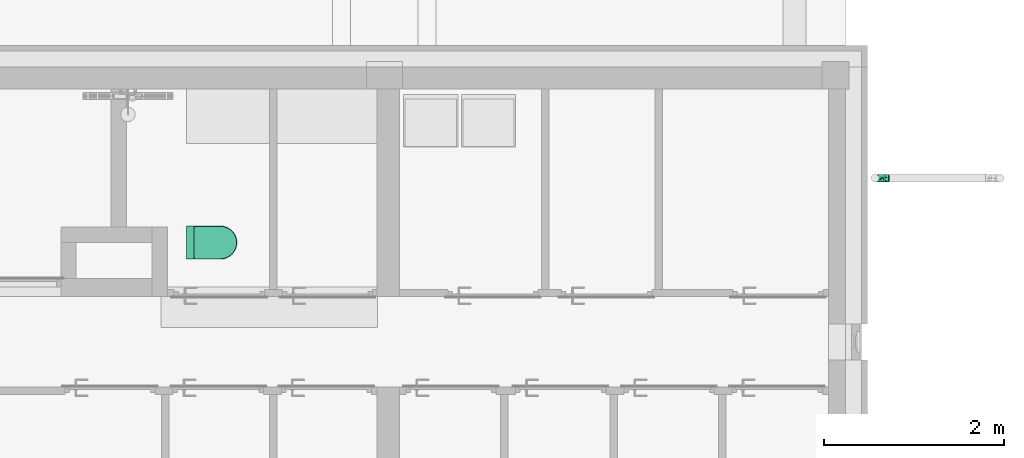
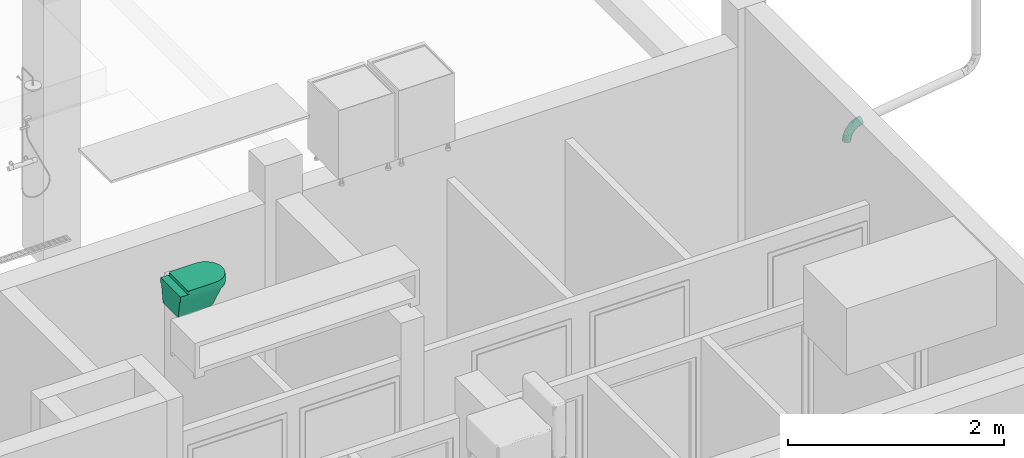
# One storey, part 12 of 55: 1 flow fitting, 1 flow terminal.
"""IFC2X3 building model written with IfcOpenShell, lengths in millimetres."""

from ifc_helpers import new_model, entity, si_unit, converted_unit, direction, frame, origin, place, context, subcontext, project, spatial, faceted_brep, source, transform, mapped, material, type_object, type_shapes, element, save


model = new_model("IFC2X3")

# Units and contexts
model_context = context("Model", 3, precision=0.01, world=origin(), true_north=direction((6.123233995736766e-17, 1.0)))
plan_context = context("Plan", 3, precision=0.01, world=origin(), true_north=direction((6.123233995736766e-17, 1.0)))
body_context = subcontext(model_context, "Body", "Model", "MODEL_VIEW")
ifc_project = project(units=[si_unit("LENGTHUNIT", "METRE", prefix="MILLI"), converted_unit("PLANEANGLEUNIT", "DEGREE", entity("IfcPlaneAngleMeasure", 0.017453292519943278), si_unit("PLANEANGLEUNIT", "RADIAN"), dimensions=[0, 0, 0, 0, 0, 0, 0]), si_unit("AREAUNIT", "SQUARE_METRE")], contexts=[model_context, plan_context])

# Site, building, storey, space
site_placement = place(None, origin())
site = spatial("IfcSite", under=ifc_project, at=site_placement, Name="Default", CompositionType="ELEMENT")
building_placement = place(site_placement, origin())
building = spatial("IfcBuilding", under=site, at=building_placement, CompositionType="ELEMENT")
storey_placement = place(building_placement, origin())
storey = spatial("IfcBuildingStorey", under=building, at=storey_placement, Name="1K", CompositionType="ELEMENT", Elevation=0.0)
space_placement = place(storey_placement, origin())
space = spatial("IfcSpace", under=storey, at=space_placement, Name="1-0.6", CompositionType="ELEMENT", InteriorOrExteriorSpace="INTERNAL")

# Flow terminal
ifc_material = material(Name="<Unnamed>")
distribution_element_type = type_object("IfcDistributionElementType", Name="HR_Plumbing-fixtures_Toilet_Generic_v3:Default", material=ifc_material)
shared_shape_1 = source(origin(), body_context, "Body", "Brep", [
    faceted_brep([(185.0, 375.0, -3940.0), (185.0, 100.0, -3940.0), (184.31851652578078, 94.82361909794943, -3940.0), (182.32050807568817, 90.0, -3940.0), (179.14213562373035, 85.85786437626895, -3940.0), (175.0, 82.67949192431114, -3940.0), (170.17638090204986, 80.68148347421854, -3940.0), (165.0, 80.0, -3940.0), (-165.0, 80.0, -3940.0), (-170.17638090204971, 80.68148347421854, -3940.0), (-175.0, 82.67949192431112, -3940.0), (-179.14213562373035, 85.85786437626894, -3940.0), (-182.32050807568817, 90.0, -3940.0), (-184.31851652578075, 94.82361909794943, -3940.0), (-185.0, 100.0, -3940.0), (-185.0, 375.0, -3940.0), (-178.6962778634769, 422.8815233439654, -3940.0), (-160.21469970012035, 467.49999999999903, -3940.0), (-130.81475451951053, 505.81475451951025, -3940.0), (-92.4999999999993, 535.21469970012, -3940.0), (-47.8815233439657, 553.6962778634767, -3940.0), (0.0, 560.0, -3940.0), (47.88152334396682, 553.6962778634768, -3940.0), (92.50000000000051, 535.2146997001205, -3940.0), (130.81475451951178, 505.8147545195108, -3940.0), (160.2146997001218, 467.4999999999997, -3940.0), (178.69627786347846, 422.8815233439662, -3940.0), (165.0, 85.0, -3905.0), (168.88228567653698, 85.51111260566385, -3905.0), (172.4999999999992, 87.00961894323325, -3905.0), (175.60660171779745, 89.39339828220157, -3905.0), (177.99038105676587, 92.49999999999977, -3905.0), (179.48888739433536, 96.11771432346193, -3905.0), (180.0, 100.0, -3905.0), (180.0, 375.0, -3905.0), (173.86664873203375, 421.5874281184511, -3905.0), (155.88457268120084, 465.0, -3905.0), (127.27922061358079, 502.27922061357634, -3905.0), (90.0, 530.884572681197, -3905.0), (46.58742811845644, 548.8666487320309, -3905.0), (0.0, 555.0, -3905.0), (-46.58742811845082, 548.8666487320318, -3905.0), (-90.0, 530.8845726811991, -3905.0), (-127.27922061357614, 502.2792206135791, -3905.0), (-155.88457268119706, 465.0, -3905.0), (-173.8666487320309, 421.58742811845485, -3905.0), (-180.0, 375.0, -3905.0), (-180.0, 100.0, -3905.0), (-179.4888873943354, 96.11771432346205, -3905.0), (-177.99038105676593, 92.49999999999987, -3905.0), (-175.6066017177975, 89.39339828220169, -3905.0), (-172.49999999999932, 87.00961894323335, -3905.0), (-168.88228567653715, 85.51111260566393, -3905.0), (-165.0, 85.0, -3905.0)], [[[0, 1, 2, 3, 4, 5, 6, 7, 8, 9, 10, 11, 12, 13, 14, 15, 16, 17, 18, 19, 20, 21, 22, 23, 24, 25, 26]], [[27, 28, 29, 30, 31, 32, 33, 34, 35, 36, 37, 38, 39, 40, 41, 42, 43, 44, 45, 46, 47, 48, 49, 50, 51, 52, 53]], [[13, 48, 47, 14]], [[49, 12, 11, 50]], [[48, 13, 12, 49]], [[52, 51, 10, 9]], [[53, 52, 9, 8]], [[10, 51, 50, 11]], [[7, 27, 53, 8]], [[6, 28, 27, 7]], [[29, 5, 4, 30]], [[28, 6, 5, 29]], [[32, 31, 3, 2]], [[33, 32, 2, 1]], [[3, 31, 30, 4]], [[0, 34, 33, 1]], [[34, 0, 26, 35]], [[35, 26, 25, 36]], [[38, 37, 24, 23]], [[24, 37, 36, 25]], [[39, 38, 23, 22]], [[39, 22, 21, 40]], [[20, 41, 40, 21]], [[45, 44, 17, 16]], [[43, 18, 17, 44]], [[45, 16, 15, 46]], [[19, 42, 41, 20]], [[19, 18, 43, 42]], [[47, 46, 15, 14]]]),
    faceted_brep([(158.04963619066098, 466.24999999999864, -4000.0), (176.28146329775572, 422.2344757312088, -4000.0), (182.5000000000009, 375.0, -4000.0), (182.5000000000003, 0.0, -4000.0), (-182.49999999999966, 0.0, -4000.0), (-182.49999999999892, 375.0, -4000.0), (-176.2814632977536, 422.23447573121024, -4000.0), (-158.04963619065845, 466.25, -4000.0), (-129.04698756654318, 504.0469875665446, -4000.0), (-91.2499999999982, 533.0496361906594, -4000.0), (-47.23447573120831, 551.281463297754, -4000.0), (0.0, 557.4999999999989, -4000.0), (47.23447573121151, 551.2814632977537, -4000.0), (91.25000000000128, 533.0496361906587, -4000.0), (129.04698756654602, 504.0469875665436, -4000.0), (-176.28146329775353, 422.23447573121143, -3940.0), (-182.49999999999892, 375.0, -3940.0), (-182.49999999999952, 0.0, -3940.0), (182.50000000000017, 0.0, -3940.0), (182.50000000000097, 375.0, -3940.0), (176.2814632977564, 422.23447573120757, -3940.0), (158.04963619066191, 466.24999999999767, -3940.0), (129.04698756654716, 504.04698756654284, -3940.0), (91.25000000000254, 533.0496361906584, -3940.0), (47.23447573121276, 551.2814632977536, -3940.0), (0.0, 557.4999999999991, -3940.0), (-47.23447573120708, 551.2814632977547, -3940.0), (-91.24999999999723, 533.0496361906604, -3940.0), (-129.04698756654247, 504.0469875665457, -3940.0), (-158.0496361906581, 466.25000000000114, -3940.0), (184.3739186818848, 0.0, -3985.051993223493), (185.0, 0.0, -3970.0), (184.37391868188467, 0.0, -3954.9480067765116), (-184.37391868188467, 0.0, -3954.9480067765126), (-185.0, 0.0, -3970.0), (-184.37391868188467, 0.0, -3985.051993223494), (185.0, 375.0, -3970.0), (184.37391868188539, 375.0, -3954.9480067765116), (184.37391868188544, 375.0, -3985.051993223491), (179.22193525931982, 420.2391964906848, -3962.467496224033), (146.12425609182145, 487.1250848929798, -3987.162723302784), (112.36452390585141, 521.4362980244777, -3982.347722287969), (-24.092382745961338, 557.9998161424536, -3957.652277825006), (-70.79643453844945, 545.9177137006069, -3969.999999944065), (165.88140661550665, 456.6493815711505, -3963.605381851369), (170.61476036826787, 445.67094705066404, -3980.89777177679), (146.7703673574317, 487.6208651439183, -3969.999999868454), (112.4934291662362, 521.6042920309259, -3961.29138681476), (70.79643457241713, 545.9177136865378, -3969.9999999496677), (-170.6147602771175, 445.67094700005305, -3980.8977734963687), (-146.12425609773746, 487.12508488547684, -3987.1627233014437), (70.4847752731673, 545.1653000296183, -3987.16272333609), (24.092382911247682, 557.9998161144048, -3982.3477222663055), (-146.77036734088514, 487.62086516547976, -3969.999999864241), (-165.88140640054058, 456.6493822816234, -3963.605385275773), (24.120021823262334, 558.2097557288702, -3961.2913867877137), (-24.120022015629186, 558.20975569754, -3978.7086133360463), (180.8695297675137, 411.23491834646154, -3983.9362692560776), (-112.36452329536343, 521.4362985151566, -3957.652277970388), (-112.4934298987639, 521.6042914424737, -3978.708613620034), (-70.48477528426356, 545.1653000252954, -3987.1627233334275), (-184.3739188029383, 375.0, -3954.948008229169), (-179.2219343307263, 420.239200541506, -3962.4674984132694), (-185.0, 375.0, -3970.0000029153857), (-184.3739185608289, 375.0, -3985.0519946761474), (-181.40133300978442, 410.0856400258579, -3979.2616608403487)], [[[0, 1, 2, 3, 4, 5, 6, 7, 8, 9, 10, 11, 12, 13, 14]], [[15, 16, 17, 18, 19, 20, 21, 22, 23, 24, 25, 26, 27, 28, 29]], [[4, 3, 30, 31, 32, 18, 17, 33, 34, 35]], [[32, 31, 36, 37]], [[32, 37, 19, 18]], [[30, 3, 2, 38]], [[30, 38, 36, 31]], [[37, 39, 20]], [[40, 14, 41]], [[20, 19, 37]], [[26, 42, 43]], [[44, 45, 46]], [[47, 41, 48]], [[48, 24, 23]], [[7, 49, 50]], [[47, 22, 46]], [[51, 12, 52]], [[21, 46, 22]], [[53, 49, 54]], [[55, 52, 56]], [[48, 52, 55]], [[36, 57, 39]], [[28, 58, 53]], [[11, 10, 56]], [[57, 38, 2]], [[37, 36, 39]], [[59, 58, 43]], [[7, 6, 49]], [[14, 13, 41]], [[12, 51, 13]], [[45, 57, 1]], [[14, 40, 0]], [[45, 1, 0]], [[47, 46, 41]], [[39, 57, 45]], [[24, 48, 55]], [[56, 42, 55]], [[26, 43, 27]], [[39, 45, 44]], [[58, 28, 27]], [[9, 59, 60]], [[27, 43, 58]], [[28, 53, 29]], [[61, 16, 15]], [[11, 56, 52]], [[61, 62, 63]], [[47, 48, 23]], [[41, 51, 48]], [[15, 54, 62]], [[42, 25, 55]], [[62, 61, 15]], [[64, 63, 65]], [[56, 60, 43]], [[55, 25, 24]], [[50, 53, 59]], [[60, 10, 9]], [[47, 23, 22]], [[62, 49, 65]], [[7, 50, 8]], [[49, 62, 54]], [[64, 6, 5]], [[42, 26, 25]], [[58, 59, 53]], [[49, 6, 65]], [[44, 21, 20]], [[11, 52, 12]], [[42, 56, 43]], [[46, 45, 40]], [[59, 9, 8]], [[39, 44, 20]], [[44, 46, 21]], [[54, 29, 53]], [[29, 54, 15]], [[13, 51, 41]], [[48, 51, 52]], [[0, 40, 45]], [[46, 40, 41]], [[10, 60, 56]], [[43, 60, 59]], [[8, 50, 59]], [[53, 50, 49]], [[1, 57, 2]], [[36, 38, 57]], [[62, 65, 63]], [[64, 65, 6]], [[16, 61, 33]], [[16, 33, 17]], [[33, 61, 34]], [[61, 63, 34]], [[64, 5, 4]], [[64, 35, 63]], [[35, 64, 4]], [[63, 35, 34]]]),
    faceted_brep([(85.0, 522.224318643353, -4000.0), (43.99923766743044, 539.2073904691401, -4000.0), (0.0, 545.0, -4000.0), (-43.99923766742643, 539.2073904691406, -4000.0), (-85.0, 522.2243186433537, -4000.0), (-120.20815280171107, 495.2081528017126, -4000.0), (-147.22431864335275, 460.0, -4000.0), (-164.20739046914, 418.9992376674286, -4000.0), (-170.0, 375.0, -4000.0), (-170.0, 0.0, -4000.0), (170.0, 0.0, -4000.0), (170.0, 375.0, -4000.0), (164.2073904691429, 418.99923766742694, -4000.0), (147.224318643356, 460.0, -4000.0), (120.20815280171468, 495.20815280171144, -4000.0), (140.0, 0.0, -4200.0), (-140.0, 0.0, -4200.0), (-140.0, 150.0, -4200.0), (-138.62980634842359, 195.25787346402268, -4200.0), (-137.25961308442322, 240.51573412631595, -4200.0), (-133.15405183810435, 285.6078202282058, -4200.0), (-129.04849039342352, 330.69990850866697, -4200.0), (-121.54313718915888, 361.12229181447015, -4200.0), (-106.97640292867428, 388.86507440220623, -4200.0), (-86.1945818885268, 412.3164634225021, -4200.0), (-60.40505081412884, 430.11398627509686, -4200.0), (-31.106123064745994, 441.2236471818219, -4200.0), (0.0, 445.0, -4200.0), (31.106123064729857, 441.2236471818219, -4200.0), (60.40505081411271, 430.1139862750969, -4200.0), (86.19458188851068, 412.3164634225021, -4200.0), (106.97640292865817, 388.86507440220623, -4200.0), (121.54313718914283, 361.12229181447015, -4200.0), (129.04849039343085, 330.69990850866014, -4200.0), (133.15405231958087, 285.60781494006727, -4200.0), (137.25961308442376, 240.51573412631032, -4200.0), (138.629806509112, 195.25786815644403, -4200.0), (140.0, 150.0, -4200.0), (150.60660238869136, 229.54951791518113, -4129.289317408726), (160.30330119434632, 302.2747589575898, -4064.6446587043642), (155.52145288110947, 359.3375502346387, -4070.710688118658), (143.52703751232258, 346.36235827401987, -4129.289311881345), (155.38792293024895, 359.1931016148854, -4071.362825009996), (136.07910358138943, 407.7451780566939, -4100.000018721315), (144.4628484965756, 378.65444268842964, -4105.413468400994), (88.6637225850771, 465.93257853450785, -4100.000001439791), (116.08235687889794, 439.8543237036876, -4100.000003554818), (-146.76963007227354, 381.58655237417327, -4094.5865394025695), (-136.0791098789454, 407.7451788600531, -4100.000000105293), (-143.66056550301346, 346.5068047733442, -4128.637184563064), (-156.76351819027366, 360.6811785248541, -4064.644658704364), (55.573859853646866, 484.30716171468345, -4100.000000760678), (18.928354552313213, 493.79904274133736, -4099.999999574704), (-55.573860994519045, 484.3071615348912, -4100.00000022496), (-18.928355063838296, 493.79904230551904, -4100.000000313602), (-143.52703638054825, 346.36235704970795, -4129.289317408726), (-88.66372427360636, 465.9325779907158, -4100.000000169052), (-116.08235986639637, 439.8543221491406, -4100.000000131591), (-159.3933967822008, 295.45047586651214, -4070.7106881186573), (-150.6066032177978, 229.54952413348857, -4129.2893118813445)], [[[0, 1, 2, 3, 4, 5, 6, 7, 8, 9, 10, 11, 12, 13, 14]], [[15, 16, 17, 18, 19, 20, 21, 22, 23, 24, 25, 26, 27, 28, 29, 30, 31, 32, 33, 34, 35, 36, 37]], [[10, 15, 37, 38, 39, 11]], [[36, 35, 39, 38, 37]], [[39, 40, 11]], [[35, 40, 39]], [[34, 33, 41, 42, 40, 35]], [[13, 12, 43]], [[32, 44, 33]], [[32, 31, 43]], [[44, 12, 42]], [[45, 30, 29]], [[45, 46, 30]], [[22, 47, 48]], [[30, 46, 31]], [[47, 49, 50, 8]], [[28, 51, 29]], [[46, 43, 31]], [[43, 44, 32]], [[12, 11, 40, 42]], [[51, 45, 29]], [[14, 45, 0]], [[13, 43, 46]], [[28, 27, 52]], [[14, 46, 45]], [[45, 51, 0]], [[0, 51, 1]], [[1, 51, 52]], [[52, 51, 28]], [[52, 2, 1]], [[13, 46, 14]], [[53, 26, 25]], [[2, 54, 3]], [[22, 21, 55, 49]], [[24, 56, 25]], [[48, 23, 22]], [[5, 57, 6]], [[48, 57, 23]], [[24, 23, 57]], [[47, 7, 48]], [[8, 7, 47]], [[26, 54, 27]], [[3, 54, 53]], [[56, 53, 25]], [[2, 52, 54]], [[57, 56, 24]], [[4, 53, 56]], [[22, 49, 47]], [[5, 56, 57]], [[57, 48, 6]], [[4, 56, 5]], [[53, 54, 26]], [[3, 53, 4]], [[6, 48, 7]], [[12, 44, 43]], [[44, 42, 41, 33]], [[54, 52, 27]], [[20, 19, 50, 49, 55, 21]], [[50, 58, 8]], [[19, 58, 50]], [[18, 17, 59, 58, 19]], [[9, 8, 58, 59, 17, 16]], [[9, 16, 15, 10]]]),
])
type_shapes(distribution_element_type, [shared_shape_1])
flow_terminal_placement = place(space_placement, frame((9783.0, 4700.0, 7430.0), z_axis=(0.0, 0.0, 1.0), x_axis=(0.0, -1.0, 0.0)))
element("IfcFlowTerminal", 1, at=flow_terminal_placement, inside=space, type_object=distribution_element_type, material=ifc_material, Name="HR_Plumbing-fixtures_Toilet_Generic_v3:Default", ObjectType="HR_Plumbing-fixtures_Toilet_Generic_v3:Default", context=body_context, shape_type="MappedRepresentation", body=[
    mapped(shared_shape_1, transform((0.0, 0.0, 0.0), scale=1.0)),
])

# Flow fitting
pipe_fitting_type = type_object("IfcPipeFittingType", Name="Elbow - Welded - SS:D+100", PredefinedType="NOTDEFINED", material=ifc_material)
shared_shape_2 = source(origin(), body_context, "Body", "Brep", [
    faceted_brep([(-156.4716128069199, 21.0, -36.3730669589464), (-156.4716128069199, 10.870399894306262, -40.568884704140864), (-156.4716128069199, 0.0, -42.0), (-156.4716128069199, -10.87039989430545, -40.56888470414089), (-156.4716128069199, -21.0, -36.37306695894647), (-156.4716128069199, -29.6984848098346, -29.698484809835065), (-156.4716128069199, -36.37306695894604, -21.0), (-156.4716128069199, -40.56888470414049, -10.870399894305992), (-156.4716128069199, -42.0, 0.0), (-156.4716128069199, -40.568884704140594, 10.870399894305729), (-156.4716128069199, -36.373066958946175, 21.0), (-156.4716128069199, -29.698484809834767, 29.698484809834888), (-156.4716128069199, -21.0, 36.37306695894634), (-156.4716128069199, -10.87039989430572, 40.56888470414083), (-156.4716128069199, 0.0, 42.0), (-156.4716128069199, 10.870399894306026, 40.56888470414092), (-156.4716128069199, 21.0, 36.37306695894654), (-156.4716128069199, 29.698484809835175, 29.69848480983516), (-156.4716128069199, 36.37306695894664, 21.0), (-156.4716128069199, 40.568884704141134, 10.870399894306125), (-156.4716128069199, 42.0, 0.0), (-156.4716128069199, 40.5688847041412, -10.870399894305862), (-156.4716128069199, 36.37306695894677, -21.0), (-156.4716128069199, 29.69848480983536, -29.698484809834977), (21.77663956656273, 154.94884182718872, -42.0), (11.012029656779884, 156.46170908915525, -40.568884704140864), (0.9810101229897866, 157.8714769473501, -36.3730669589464), (-7.632821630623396, 159.08207205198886, -29.698484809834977), (-14.242447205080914, 160.01099434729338, -21.0), (-18.397431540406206, 160.59493931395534, -10.870399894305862), (-19.814619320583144, 160.79411206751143, 0.0), (-18.39743154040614, 160.59493931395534, 10.870399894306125), (-14.24244720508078, 160.01099434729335, 21.0), (-7.6328216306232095, 159.08207205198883, 29.69848480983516), (0.9810101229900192, 157.87147694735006, 36.37306695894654), (11.012029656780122, 156.46170908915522, 40.56888470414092), (21.776639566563, 154.9488418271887, 42.0), (32.54124947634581, 153.4359745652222, 40.56888470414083), (42.572269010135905, 152.02620670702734, 36.37306695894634), (51.186100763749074, 150.8156116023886, 29.698484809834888), (57.79572633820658, 149.88668930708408, 21.0), (61.95071067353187, 149.3027443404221, 10.870399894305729), (63.36789845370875, 149.10357158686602, 0.0), (61.95071067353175, 149.30274434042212, -10.870399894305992), (57.79572633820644, 149.8866893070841, -21.0), (51.186100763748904, 150.81561160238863, -29.698484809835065), (42.572269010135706, 152.02620670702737, -36.37306695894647), (32.54124947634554, 153.43597456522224, -40.56888470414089), (-111.3057597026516, 39.67040049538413, 26.504264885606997), (-124.91933139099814, 28.15685334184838, 33.81313334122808), (-77.65524779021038, -19.43290633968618, 24.035960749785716), (-120.10318641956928, -30.721653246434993, 24.880817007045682), (-105.59460883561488, -33.26848695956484, 14.939712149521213), (11.47977985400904, 130.28141997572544, 41.71972193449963), (16.649152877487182, 110.45948053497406, 41.48366299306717), (-78.74017956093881, -1.8972074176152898, 38.03690667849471), (-105.233269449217, -20.06730210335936, 32.56471476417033), (-59.94468156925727, -3.8021953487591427, 31.652009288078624), (-120.62994505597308, -38.34673077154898, 7.802501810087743), (-104.01903308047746, -35.71445681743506, 0.0), (-80.17695091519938, -27.789127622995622, 7.343073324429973), (10.99522293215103, 59.088080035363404, 32.53996426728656), (12.837258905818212, 77.70984530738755, 38.036906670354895), (-13.654919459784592, 40.0514468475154, 36.956429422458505), (-120.5630781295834, -13.560701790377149, 38.46593714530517), (-68.40825677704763, -20.67491966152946, 15.214530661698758), (-34.0136084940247, -2.3748192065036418, 13.78393924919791), (47.64064945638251, 99.93689076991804, 14.939712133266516), (30.051308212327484, 74.19497428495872, 24.035960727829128), (19.19344936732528, 47.74704435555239, 13.162490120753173), (-19.893280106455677, 47.79837807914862, 40.77213390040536), (-39.93188937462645, 45.936383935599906, 41.9334193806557), (-64.90619619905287, 18.416085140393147, 41.6080543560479), (-0.9449298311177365, 30.906396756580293, 22.52783406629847), (-23.458255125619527, 131.74837927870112, 16.773427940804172), (-130.6112067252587, 6.763609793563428, 41.71972193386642), (-54.53666015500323, -17.21375567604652, 0.0), (-10.826508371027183, 12.454473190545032, 0.0), (-113.70627231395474, 20.69630840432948, 39.20865273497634), (-99.7849306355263, 48.22063247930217, 20.698391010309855), (-127.20145502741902, 41.56579148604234, 16.773427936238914), (-123.9100093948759, 44.90282825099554, 8.955303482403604), (-33.86397440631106, 105.52484544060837, 20.69839101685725), (-64.02143175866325, 73.64823245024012, 15.380381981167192), (-61.13838242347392, 70.33166356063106, 23.679962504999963), (-96.55340788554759, 14.492181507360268, 41.810995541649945), (-111.70161072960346, -1.114136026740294, 41.48366299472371), (-81.71587978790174, 64.00180871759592, 0.0), (-117.5084917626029, 47.6146715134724, 0.0), (-30.265843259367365, 70.94956612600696, 39.869465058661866), (-0.9135074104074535, 97.63067856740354, 41.81099554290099), (-4.670038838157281, 115.48006008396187, 39.20865273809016), (38.87157178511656, 75.86724277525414, 7.274126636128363), (24.63626869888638, 51.61022137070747, 0.0), (49.843537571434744, 98.03623529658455, 0.0), (47.1378051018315, 114.6587226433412, 24.88081699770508), (-36.611305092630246, 2.637847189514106, 24.567771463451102), (34.51764892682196, 101.41631780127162, 32.564714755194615), (30.20786742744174, 117.50248162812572, 38.46593714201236), (-5.114362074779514, 18.983933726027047, 9.169381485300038), (-3.470987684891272, 76.947007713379, 41.76147513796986), (52.7057990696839, 107.80754414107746, 7.718125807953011), (-65.53168486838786, 75.38557993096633, 7.163821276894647), (-52.006295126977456, 89.82795664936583, 0.0), (-27.22089676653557, 128.95339154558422, 8.955303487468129), (-39.62404788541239, 102.41198808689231, 13.59564633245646), (-30.797267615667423, 122.99158868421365, 0.0), (-56.33856922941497, 54.823740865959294, 37.09265164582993), (-57.99007764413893, 63.84695588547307, 31.555877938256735), (-87.99033609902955, 39.941678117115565, 34.40024483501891), (-10.497422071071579, 127.6223015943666, 33.8131333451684), (-95.90072007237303, 53.49142331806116, 13.59564633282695), (-23.793563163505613, 115.74359231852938, 26.504264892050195), (-27.307080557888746, 92.69282732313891, 34.40024484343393), (-68.68945421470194, 36.672513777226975, 40.27086514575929), (-40.366312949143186, 89.56898909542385, 26.1918406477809), (-83.07940497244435, 52.43906470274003, 26.19184063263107), (-66.51594580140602, 26.37392661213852, 41.95355042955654), (-17.27402658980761, 69.68803179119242, 41.9318451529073), (-19.842932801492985, 22.82668292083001, 31.07345528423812), (-38.40638720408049, 15.466145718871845, 35.45766222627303), (-44.44157413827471, 20.348732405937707, 39.21609477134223), (-113.14727831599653, 39.12407347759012, -26.46532947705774), (-93.31894645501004, 37.5946662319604, -34.313434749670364), (-128.11536320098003, 27.59632127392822, -33.763302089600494), (-116.31148726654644, 20.085079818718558, -39.18423424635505), (-79.25987841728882, 30.830005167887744, -40.23974952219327), (-108.61945779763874, 10.932658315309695, -41.78020948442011), (4.290644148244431, 109.08391233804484, -41.78020948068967), (-127.20145618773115, 41.565791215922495, -16.77342799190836), (7.61020385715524, 32.53073901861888, -10.705006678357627), (-123.91001040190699, 44.902828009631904, -8.9553034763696), (-23.458254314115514, 131.748381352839, -16.773428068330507), (-27.22089650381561, 128.9533923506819, -8.955303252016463), (-95.90072217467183, 53.491422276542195, -13.595646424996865), (-65.53168617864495, 75.3855788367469, -7.163821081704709), (-31.57299612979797, 39.92603281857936, -41.29354332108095), (-82.37736675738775, 7.975940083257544, -41.36028508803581), (-60.236722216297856, 30.97090590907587, -41.91945793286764), (44.29435979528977, 106.01690790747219, -24.707603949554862), (-97.89370506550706, -18.187299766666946, -32.451299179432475), (-112.07619569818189, -11.985596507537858, -38.38274629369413), (-65.97966577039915, 0.943035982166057, -36.58729450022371), (-111.50511418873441, -29.180147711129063, -24.714520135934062), (-47.076742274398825, 54.155596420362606, -39.85370023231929), (-21.945393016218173, 65.09627343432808, -41.886807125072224), (-115.56666976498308, -37.403651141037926, -8.065170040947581), (-80.37337876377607, -27.97896121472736, -6.690142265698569), (-64.77383178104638, -19.78964677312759, -13.331309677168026), (-59.672615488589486, -11.64699088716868, -23.653792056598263), (-64.77301476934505, -8.196229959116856, -30.045187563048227), (-33.49841069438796, 11.478776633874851, -30.740254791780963), (-19.429023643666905, 82.75622585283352, -40.2607575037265), (-24.24131097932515, 97.64293809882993, -34.31343478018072), (-3.70218301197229, 117.97485432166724, -39.18423424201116), (-98.30225686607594, -31.461650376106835, -14.772171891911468), (-99.55087627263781, 48.25429895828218, -20.807028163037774), (-122.47180242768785, -3.1734891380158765, -41.52447618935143), (-39.62404609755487, 102.41199075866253, -13.595646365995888), (-64.02143425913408, 73.64823017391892, -15.380382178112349), (-33.632211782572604, -2.711362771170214, -12.27648033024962), (-9.4975435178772, 130.7092184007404, -33.76330212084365), (-22.996263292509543, 117.49115459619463, -26.46532968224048), (-33.92988655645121, 105.2977551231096, -20.807028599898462), (-61.138384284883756, 70.3316613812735, -23.679963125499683), (20.18738538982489, 120.83825073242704, -41.52447619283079), (44.261011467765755, 91.61724995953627, -14.739405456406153), (54.08522046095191, 112.29509041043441, -8.286442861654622), (39.24138643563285, 76.3322096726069, -6.628292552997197), (31.04137392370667, 93.05386481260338, -32.429070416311), (27.345452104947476, 108.98035866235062, -38.37927290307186), (28.014771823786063, 60.26098703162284, -12.99877810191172), (10.341844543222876, 55.1118416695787, -30.95744662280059), (8.006266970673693, 65.35881741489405, -36.66371510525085), (-66.71692059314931, 47.22803583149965, -37.073703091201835), (-52.817149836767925, 68.0499146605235, -31.80406896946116), (-40.806736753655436, 70.23354333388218, -36.63400117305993), (-83.17541264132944, 51.92877503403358, -26.6792477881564), (17.8055074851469, 54.51437245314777, -23.583456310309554), (3.5663945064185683, 82.6857118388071, -41.36028509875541), (-16.371478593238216, 16.069740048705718, -22.219282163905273), (-39.84762937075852, 89.59304159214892, -26.679247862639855), (-25.82338785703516, 29.70640937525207, -37.38480492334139)], [[[0, 1, 2, 3, 4, 5, 6, 7, 8, 9, 10, 11, 12, 13, 14, 15, 16, 17, 18, 19, 20, 21, 22, 23]], [[24, 25, 26, 27, 28, 29, 30, 31, 32, 33, 34, 35, 36, 37, 38, 39, 40, 41, 42, 43, 44, 45, 46, 47]], [[48, 17, 49]], [[50, 51, 52]], [[36, 53, 54]], [[55, 56, 57]], [[58, 8, 59]], [[16, 49, 17]], [[56, 12, 11]], [[58, 60, 52]], [[61, 62, 63]], [[11, 51, 56]], [[13, 12, 64]], [[65, 60, 66]], [[67, 68, 69]], [[70, 71, 72]], [[10, 9, 52]], [[18, 17, 48]], [[73, 69, 68]], [[74, 32, 31]], [[15, 14, 75]], [[66, 76, 77]], [[15, 75, 78]], [[48, 79, 80]], [[36, 35, 53]], [[20, 19, 81]], [[82, 83, 84]], [[85, 75, 86]], [[81, 87, 88]], [[89, 90, 91]], [[15, 78, 16]], [[92, 93, 94]], [[52, 60, 65]], [[85, 86, 72]], [[54, 37, 36]], [[64, 56, 55]], [[39, 95, 40]], [[41, 40, 67]], [[50, 96, 57]], [[61, 68, 97]], [[61, 97, 62]], [[67, 40, 95]], [[38, 37, 98]], [[97, 39, 38]], [[93, 69, 99]], [[100, 54, 90]], [[66, 73, 96]], [[41, 101, 42]], [[95, 97, 68]], [[35, 34, 91]], [[87, 102, 103]], [[104, 103, 105]], [[97, 38, 98]], [[106, 104, 30]], [[107, 108, 109]], [[10, 51, 11]], [[14, 13, 86]], [[34, 33, 110]], [[111, 83, 102]], [[110, 112, 113]], [[19, 80, 81]], [[104, 105, 74]], [[18, 80, 19]], [[32, 112, 33]], [[91, 90, 53]], [[82, 112, 74]], [[85, 114, 78]], [[92, 69, 93]], [[9, 58, 52]], [[108, 115, 84]], [[101, 67, 92]], [[116, 109, 108]], [[80, 79, 111]], [[112, 32, 74]], [[115, 112, 82]], [[64, 86, 13]], [[117, 72, 71]], [[85, 117, 114]], [[49, 78, 109]], [[110, 91, 34]], [[113, 108, 107]], [[118, 70, 100]], [[98, 54, 62]], [[68, 61, 73]], [[77, 99, 66]], [[86, 55, 72]], [[119, 63, 120]], [[121, 72, 55]], [[100, 62, 54]], [[114, 71, 89]], [[109, 78, 114]], [[89, 71, 118]], [[113, 89, 91]], [[54, 98, 37]], [[97, 98, 62]], [[56, 64, 12]], [[86, 64, 55]], [[52, 51, 10]], [[56, 51, 50]], [[97, 95, 39]], [[67, 95, 68]], [[96, 73, 119]], [[99, 73, 66]], [[57, 96, 119]], [[96, 50, 65]], [[63, 121, 120]], [[50, 57, 56]], [[78, 49, 16]], [[48, 49, 109]], [[112, 110, 33]], [[91, 110, 113]], [[63, 62, 70]], [[61, 119, 73]], [[121, 63, 70]], [[119, 61, 63]], [[72, 121, 70]], [[120, 55, 57]], [[55, 120, 121]], [[57, 119, 120]], [[104, 74, 31]], [[74, 105, 82]], [[30, 104, 31]], [[103, 104, 106]], [[83, 82, 105]], [[115, 82, 84]], [[79, 116, 84]], [[113, 112, 115]], [[109, 114, 107]], [[113, 115, 108]], [[114, 89, 107]], [[113, 107, 89]], [[48, 80, 18]], [[81, 80, 111]], [[87, 81, 111]], [[20, 81, 88]], [[116, 79, 48]], [[83, 79, 84]], [[109, 116, 48]], [[108, 84, 116]], [[118, 100, 90]], [[62, 100, 70]], [[89, 118, 90]], [[70, 118, 71]], [[105, 103, 102]], [[79, 83, 111]], [[111, 102, 87]], [[105, 102, 83]], [[86, 75, 14]], [[78, 75, 85]], [[91, 53, 35]], [[54, 53, 90]], [[8, 58, 9]], [[60, 59, 76]], [[59, 60, 58]], [[66, 60, 76]], [[96, 65, 66]], [[50, 52, 65]], [[101, 92, 94]], [[69, 92, 67]], [[42, 101, 94]], [[41, 67, 101]], [[93, 99, 77]], [[73, 99, 69]], [[114, 117, 71]], [[85, 72, 117]], [[122, 123, 124]], [[125, 123, 126]], [[1, 125, 127]], [[24, 128, 25]], [[22, 21, 129]], [[77, 130, 93]], [[88, 131, 20]], [[29, 132, 133]], [[131, 87, 134]], [[103, 135, 87]], [[136, 137, 138]], [[44, 139, 45]], [[28, 132, 29]], [[140, 141, 142]], [[6, 5, 143]], [[144, 145, 138]], [[8, 7, 146]], [[76, 147, 148]], [[149, 150, 151]], [[152, 153, 154]], [[141, 140, 4]], [[146, 155, 147]], [[6, 155, 7]], [[155, 143, 149]], [[156, 122, 129]], [[5, 140, 143]], [[127, 137, 157]], [[1, 0, 125]], [[125, 126, 127]], [[127, 2, 1]], [[135, 158, 159]], [[149, 160, 148]], [[30, 29, 133]], [[27, 161, 162]], [[132, 162, 163]], [[164, 156, 159]], [[165, 128, 24]], [[5, 4, 140]], [[128, 154, 25]], [[130, 77, 160]], [[47, 165, 24]], [[131, 134, 129]], [[166, 167, 168]], [[25, 154, 26]], [[137, 127, 138]], [[27, 26, 161]], [[4, 3, 141]], [[46, 169, 170]], [[171, 168, 93]], [[76, 160, 77]], [[43, 167, 44]], [[3, 2, 157]], [[45, 139, 169]], [[47, 46, 170]], [[46, 45, 169]], [[169, 172, 173]], [[94, 167, 42]], [[174, 175, 176]], [[177, 164, 175]], [[178, 169, 139]], [[27, 162, 28]], [[147, 76, 59]], [[173, 179, 170]], [[0, 23, 124]], [[167, 166, 44]], [[103, 106, 133]], [[142, 151, 150]], [[122, 23, 22]], [[180, 149, 151]], [[122, 22, 129]], [[177, 122, 156]], [[181, 153, 175]], [[132, 163, 158]], [[44, 166, 139]], [[178, 139, 166]], [[173, 170, 169]], [[165, 170, 179]], [[143, 140, 150]], [[155, 6, 143]], [[157, 141, 3]], [[142, 137, 182]], [[124, 125, 0]], [[123, 174, 126]], [[128, 145, 152]], [[161, 154, 153]], [[180, 130, 160]], [[168, 171, 166]], [[144, 152, 145]], [[138, 145, 136]], [[137, 142, 141]], [[142, 182, 151]], [[182, 173, 172]], [[151, 172, 180]], [[169, 178, 172]], [[173, 182, 136]], [[128, 179, 145]], [[179, 173, 136]], [[179, 136, 145]], [[137, 136, 182]], [[130, 180, 178]], [[160, 149, 180]], [[180, 172, 178]], [[182, 172, 151]], [[127, 157, 2]], [[141, 157, 137]], [[170, 165, 47]], [[128, 165, 179]], [[131, 129, 21]], [[129, 134, 156]], [[20, 131, 21]], [[87, 131, 88]], [[159, 156, 134]], [[177, 156, 164]], [[163, 181, 164]], [[123, 122, 177]], [[176, 175, 153]], [[123, 177, 175]], [[162, 132, 28]], [[133, 132, 158]], [[103, 133, 158]], [[30, 133, 106]], [[181, 163, 162]], [[159, 163, 164]], [[153, 181, 162]], [[175, 164, 181]], [[122, 124, 23]], [[125, 124, 123]], [[154, 161, 26]], [[162, 161, 153]], [[152, 144, 176]], [[128, 152, 154]], [[152, 176, 153]], [[174, 176, 144]], [[174, 144, 126]], [[175, 174, 123]], [[144, 138, 126]], [[127, 126, 138]], [[134, 87, 135]], [[163, 159, 158]], [[158, 135, 103]], [[134, 135, 159]], [[42, 167, 43]], [[168, 167, 94]], [[94, 93, 168]], [[171, 93, 130]], [[130, 178, 171]], [[178, 166, 171]], [[146, 147, 59]], [[148, 147, 155]], [[8, 146, 59]], [[7, 155, 146]], [[149, 148, 155]], [[76, 148, 160]], [[143, 150, 149]], [[142, 150, 140]]]),
])
type_shapes(pipe_fitting_type, [shared_shape_2])
flow_fitting_placement = place(storey_placement, frame((17413.463728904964, 5414.112607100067, 2200.9077312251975), z_axis=(0.0, -1.0, 0.0), x_axis=(-0.9902680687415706, 0.0, -0.13917310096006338)))
element("IfcFlowFitting", 2, at=flow_fitting_placement, inside=storey, type_object=pipe_fitting_type, material=ifc_material, Name="Elbow - Welded - SS:D+100", ObjectType="Elbow - Welded - SS:D+100", context=body_context, shape_type="MappedRepresentation", body=[
    mapped(shared_shape_2, transform((0.0, 0.0, 0.0), scale=1.0)),
])

save(model, "model.ifc")
